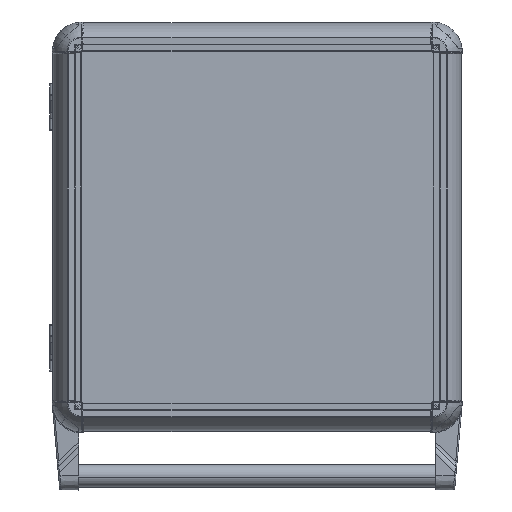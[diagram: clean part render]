
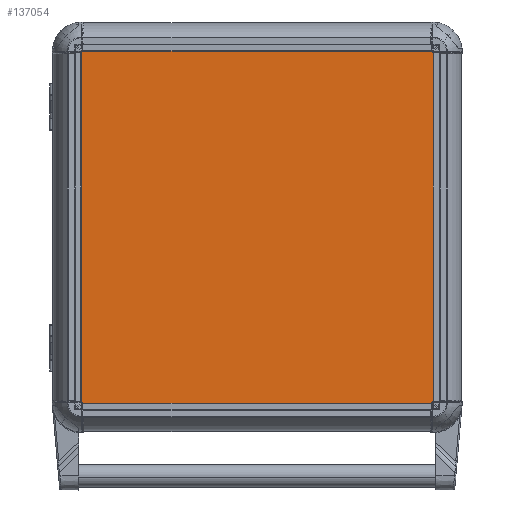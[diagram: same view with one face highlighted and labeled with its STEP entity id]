
A CAD part, top view. The second image highlights one B-rep face of the part: STEP entity #137054.
In plain terms, the highlighted planar face has unit normal (0, 0, 1).
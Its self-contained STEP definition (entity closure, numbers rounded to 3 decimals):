
#35283 = VECTOR ( 'NONE', #246147, 1000. ) ;
#41357 = VERTEX_POINT ( 'NONE', #174498 ) ;
#48115 = ORIENTED_EDGE ( 'NONE', *, *, #104709, .T. ) ;
#55550 = PLANE ( 'NONE',  #236067 ) ;
#58155 = CARTESIAN_POINT ( 'NONE',  ( -150., 150., 2. ) ) ;
#59531 = EDGE_CURVE ( 'NONE', #257356, #91210, #255746, .T. ) ;
#65906 = CARTESIAN_POINT ( 'NONE',  ( -150., 150., 2. ) ) ;
#69949 = LINE ( 'NONE', #88429, #35283 ) ;
#76258 = VERTEX_POINT ( 'NONE', #134421 ) ;
#88429 = CARTESIAN_POINT ( 'NONE',  ( -150., -150., 2. ) ) ;
#89510 = DIRECTION ( 'NONE',  ( 0., -1., 0. ) ) ;
#91210 = VERTEX_POINT ( 'NONE', #103686 ) ;
#95012 = CARTESIAN_POINT ( 'NONE',  ( 0., 0., 2. ) ) ;
#97541 = EDGE_CURVE ( 'NONE', #91210, #41357, #259238, .T. ) ;
#103686 = CARTESIAN_POINT ( 'NONE',  ( 150., 150., 2. ) ) ;
#104709 = EDGE_CURVE ( 'NONE', #76258, #257356, #69949, .T. ) ;
#108028 = ORIENTED_EDGE ( 'NONE', *, *, #97541, .T. ) ;
#113059 = VECTOR ( 'NONE', #89510, 1000. ) ;
#113734 = EDGE_CURVE ( 'NONE', #41357, #76258, #248523, .T. ) ;
#124261 = ORIENTED_EDGE ( 'NONE', *, *, #113734, .T. ) ;
#134421 = CARTESIAN_POINT ( 'NONE',  ( -150., -150., 2. ) ) ;
#135368 = ORIENTED_EDGE ( 'NONE', *, *, #59531, .T. ) ;
#137054 = ADVANCED_FACE ( 'NONE', ( #138238 ), #55550, .T. ) ;
#138238 = FACE_OUTER_BOUND ( 'NONE', #251618, .T. ) ;
#144549 = VECTOR ( 'NONE', #160914, 1000. ) ;
#160914 = DIRECTION ( 'NONE',  ( 0., 1., 0. ) ) ;
#174498 = CARTESIAN_POINT ( 'NONE',  ( -150., 150., 2. ) ) ;
#205672 = CARTESIAN_POINT ( 'NONE',  ( 150., 150., 2. ) ) ;
#212857 = VECTOR ( 'NONE', #240761, 1000. ) ;
#215946 = DIRECTION ( 'NONE',  ( 0., 0., 1. ) ) ;
#235586 = DIRECTION ( 'NONE',  ( 1., 0., 0. ) ) ;
#236067 = AXIS2_PLACEMENT_3D ( 'NONE', #95012, #215946, #235586 ) ;
#239535 = CARTESIAN_POINT ( 'NONE',  ( 150., -150., 2. ) ) ;
#240761 = DIRECTION ( 'NONE',  ( -1., 0., 0. ) ) ;
#246147 = DIRECTION ( 'NONE',  ( 1., 0., 0. ) ) ;
#248523 = LINE ( 'NONE', #65906, #113059 ) ;
#251618 = EDGE_LOOP ( 'NONE', ( #135368, #108028, #124261, #48115 ) ) ;
#255746 = LINE ( 'NONE', #205672, #144549 ) ;
#257356 = VERTEX_POINT ( 'NONE', #239535 ) ;
#259238 = LINE ( 'NONE', #58155, #212857 ) ;
